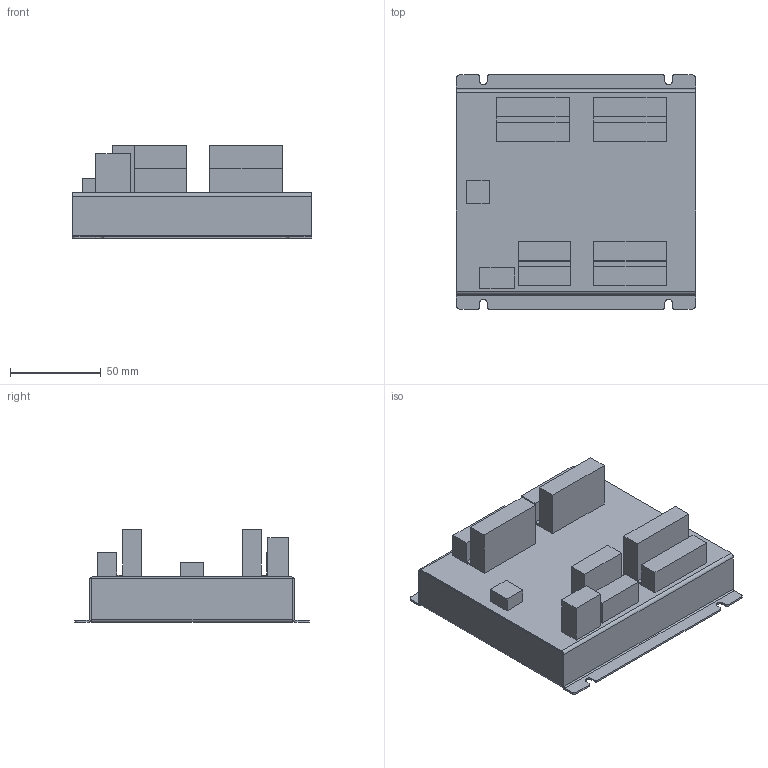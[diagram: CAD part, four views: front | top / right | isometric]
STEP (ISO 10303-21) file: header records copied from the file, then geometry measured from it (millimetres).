
FILE_DESCRIPTION (( 'STEP AP203' ), '1' );
FILE_NAME ('IO64M01_3d_model.STEP', '2020-04-14T10:35:08', ( 'Windows 蚚誧' ), ( ' ' ), 'SwSTEP 2.0', 'SolidWorks 2014', '' );
FILE_SCHEMA (( 'CONFIG_CONTROL_DESIGN' ));
Length unit declared in the file: millimetre
Products named in the file (3): IO64M01鍼踢ㄗ奻ㄘ; IO64M01鍼踢ㄗ狟ㄘ; IO64M01_3d_model
Assembly tree (2 placements, depth 2):
  IO64M01_3d_model
    IO64M01鍼踢ㄗ奻ㄘ
    IO64M01鍼踢ㄗ狟ㄘ
Bounding box: 132 x 129 x 51 mm (x, y, z)
Volume: 116559 mm3; surface area: 114491.7 mm2
Topology: 2 solids, 2 shells, 154 faces, 372 edges, 228 vertices
Faces by surface type: plane 122, cylinder 32
Entity records: 4689 total; most frequent: CARTESIAN_POINT 759, DIRECTION 758, ORIENTED_EDGE 744, EDGE_CURVE 372, VECTOR 304, LINE 304, VERTEX_POINT 228, AXIS2_PLACEMENT_3D 227
